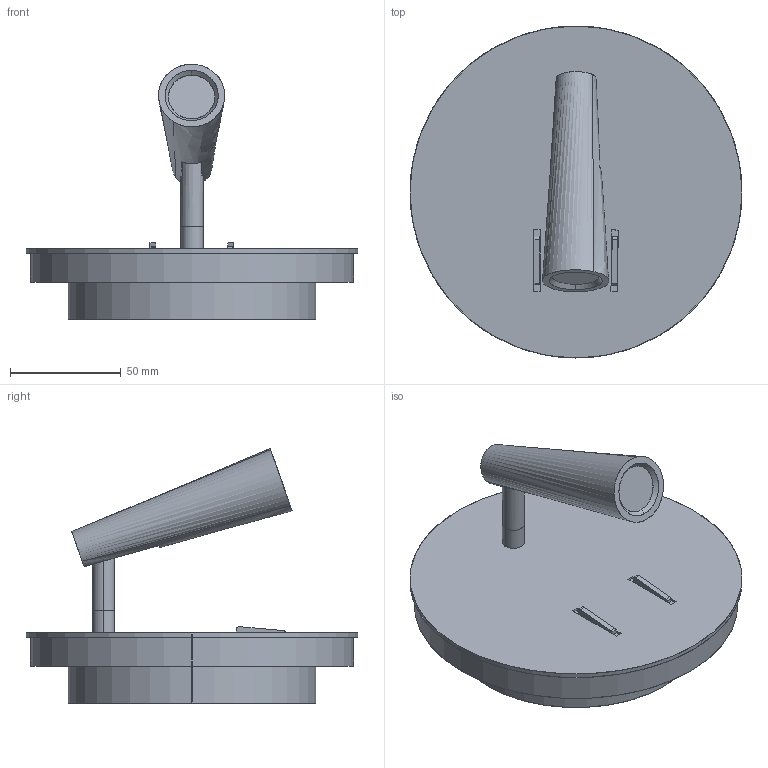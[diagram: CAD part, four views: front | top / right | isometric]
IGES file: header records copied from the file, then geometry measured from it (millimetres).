
Start section: SolidWorks IGES file using analytic representation for surfaces
Global section: file name: C:\Users\danielet\Desktop\3D ANDONI\CATALOGO DECO\PANAU-A36600-3D\PANAU-A36600-3D.IGS; native system: SolidWorks 2018; preprocessor: SolidWorks 2018; author: danielet; date: 210125.110830; units: millimetre
Bounding box: 150 x 150 x 115.47 mm (x, y, z)
Surface area: 86869.2 mm2 (no closed solid volume)
Topology: 0 solids, 0 shells, 76 faces, 1404 edges, 1404 vertices
Faces by surface type: bspline 52, revolution 24
